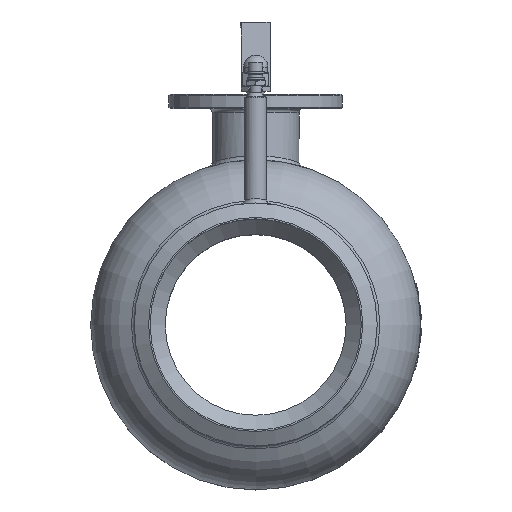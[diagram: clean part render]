
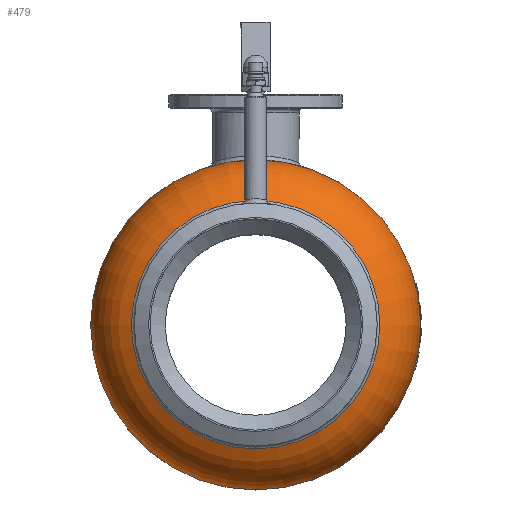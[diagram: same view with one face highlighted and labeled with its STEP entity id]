
A CAD part, top view. The second image highlights one B-rep face of the part: STEP entity #479.
In plain terms, the highlighted toroidal (fillet/blend) face has major radius 68.183 mm and minor radius 45.817 mm.
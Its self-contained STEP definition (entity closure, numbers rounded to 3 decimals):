
#479=ADVANCED_FACE('',(#2795,#2797),#2799,.T.);
#2795=FACE_OUTER_BOUND('',#2796,.T.);
#2796=EDGE_LOOP('',(#29731));
#2797=FACE_BOUND('',#2798,.T.);
#2798=EDGE_LOOP('',(#29732,#29733));
#2799=TOROIDAL_SURFACE('',#2800,68.183,45.817);
#2800=AXIS2_PLACEMENT_3D('',#2801,#2802,#2803);
#2801=CARTESIAN_POINT('',(0.,0.,43.));
#2802=DIRECTION('',(0.,0.,1.));
#2803=DIRECTION('',(1.,0.,0.));
#29731=ORIENTED_EDGE('',*,*,#35473,.T.);
#29732=ORIENTED_EDGE('',*,*,#36100,.T.);
#29733=ORIENTED_EDGE('',*,*,#36101,.T.);
#35473=EDGE_CURVE('',#37598,#37598,#37599,.T.);
#36100=EDGE_CURVE('',#38822,#38823,#38824,.T.);
#36101=EDGE_CURVE('',#38823,#38822,#38825,.T.);
#37598=VERTEX_POINT('',#41166);
#37599=CIRCLE('',#41167,114.);
#38822=VERTEX_POINT('',#57437);
#38823=VERTEX_POINT('',#57438);
#38824=CIRCLE('',#57439,85.844);
#38825=CIRCLE('',#57443,85.844);
#41166=CARTESIAN_POINT('',(114.,0.,43.));
#41167=AXIS2_PLACEMENT_3D('',#41168,#41169,#41170);
#41168=CARTESIAN_POINT('',(0.,0.,43.));
#41169=DIRECTION('',(0.,0.,1.));
#41170=DIRECTION('',(1.,0.,0.));
#57437=CARTESIAN_POINT('',(85.844,0.,85.276));
#57438=CARTESIAN_POINT('',(-85.844,0.,85.276));
#57439=AXIS2_PLACEMENT_3D('',#57440,#57441,#57442);
#57440=CARTESIAN_POINT('',(0.,0.,85.276));
#57441=DIRECTION('',(0.,0.,-1.));
#57442=DIRECTION('',(1.,0.,0.));
#57443=AXIS2_PLACEMENT_3D('',#57444,#57445,#57446);
#57444=CARTESIAN_POINT('',(0.,0.,85.276));
#57445=DIRECTION('',(0.,0.,-1.));
#57446=DIRECTION('',(-1.,0.,0.));
